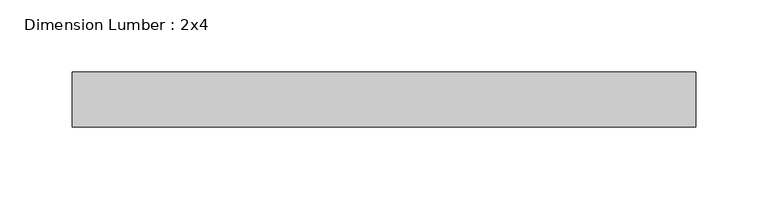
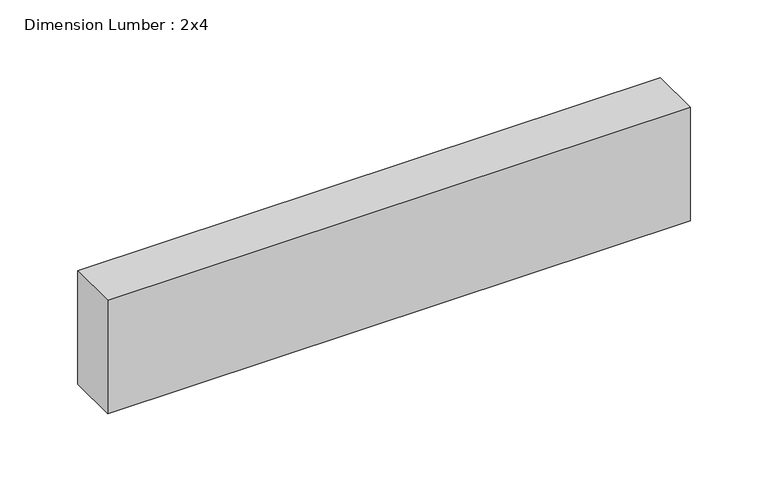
"""IFC4 building model written with IfcOpenShell, lengths in millimetres: beam geometry, Dimension Lumber : 2x4."""

from ifc_helpers import new_model, si_unit, frame, origin, place, context, project, spatial, polyline, outline, extrude, source, transform, mapped, element, save


def dimension_lumber_2x4_5f5952b7(model_context):
    return source(origin(), model_context, "Body", "SweptSolid", [
        extrude(outline(polyline([(215.9, 19.05), (215.9, -19.05), (-215.9, -19.05), (-215.9, 19.05), (215.9, 19.05)])), frame((0.0, 0.0, -44.45), z_axis=(0.0, 0.0, 1.0), x_axis=(1.0, 0.0, 0.0)), (0.0, 0.0, 1.0), 88.9),
    ])


if __name__ == "__main__":
    model = new_model("IFC4")
    model_context = context("Model", 3, world=origin())
    ifc_project = project(units=[si_unit("LENGTHUNIT", "METRE", prefix="MILLI")], contexts=[model_context])
    site = spatial("IfcSite", under=ifc_project)
    building = spatial("IfcBuilding", under=site)
    placement = place(None, origin())
    dimension_lumber_2x4_shape = dimension_lumber_2x4_5f5952b7(model_context)
    element("IfcBeam", 1, ObjectType="Dimension Lumber : 2x4", at=placement, inside=building, context=model_context, shape_type="MappedRepresentation", body=[
        mapped(dimension_lumber_2x4_shape, transform((0.0, 0.0, 0.0), x_axis=(1.0, 0.0, 0.0), y_axis=(0.0, 1.0, 0.0), z_axis=(0.0, 0.0, 1.0))),
    ])
    save(model, "model.ifc")
